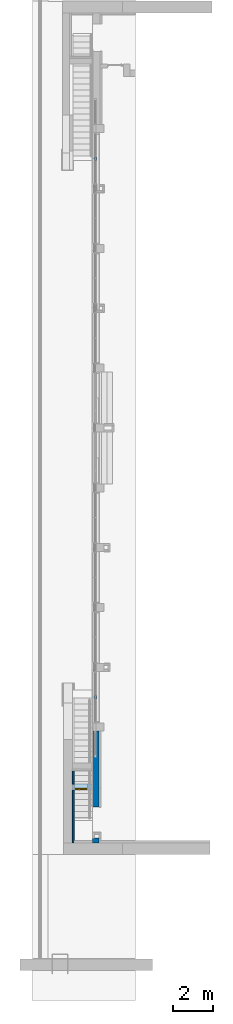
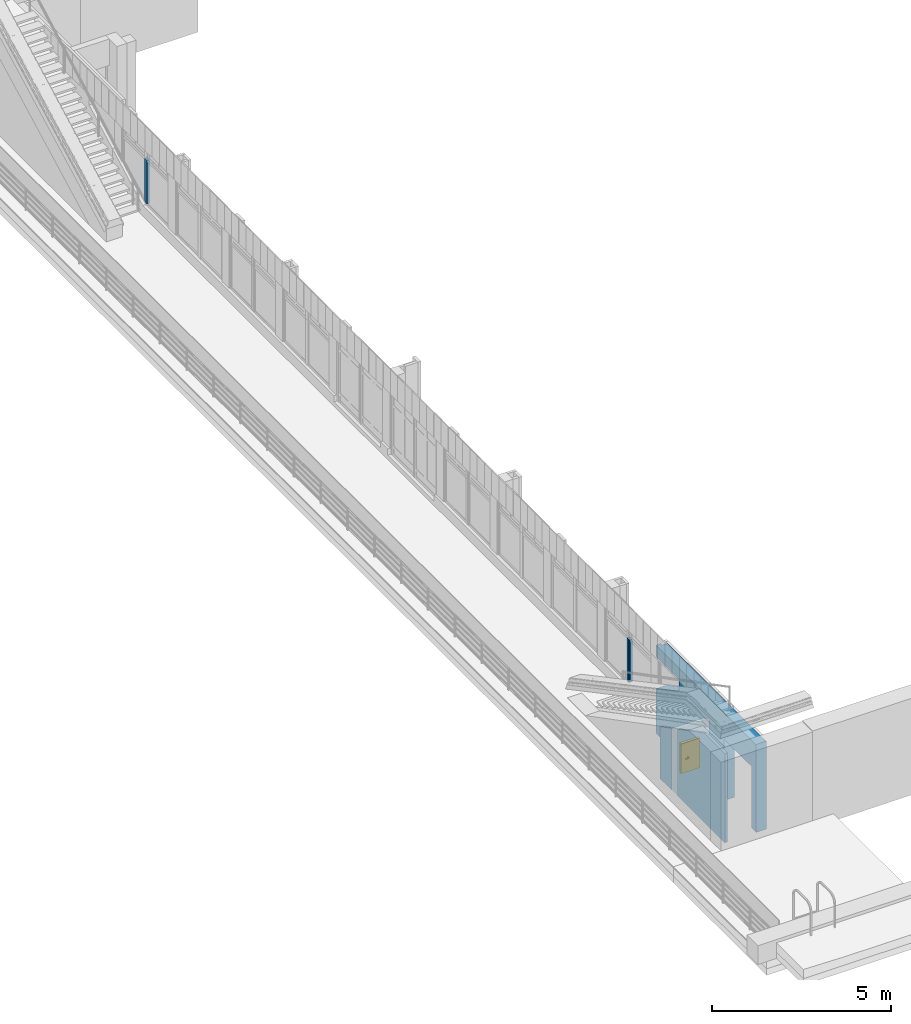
# One storey, part 10 of 16: 2 members, 2 walls, 1 door, 1 opening, 2 elements without a shape of their own, plus 1 element that does not belong to this part.
"""IFC2X3 building model written with IfcOpenShell, lengths in millimetres."""

from ifc_helpers import new_model, entity, si_unit, converted_unit, derived_unit, direction, frame, frame_2d, origin, place, context, subcontext, project, spatial, polyline, rectangle, extrude, clip, bounded_halfspace, faceted_brep, source, transform, mapped, material, layer, layer_set, layer_usage, type_object, type_shapes, element, fill, aggregate, save


model = new_model("IFC2X3")

# Units and contexts
model_context = context("Model", 3, precision=0.01, world=origin(), true_north=direction((6.123031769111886e-17, 1.0)))
body_context = subcontext(model_context, "Body", "Model", "MODEL_VIEW")
ifc_project = project(units=[si_unit("LENGTHUNIT", "METRE", prefix="MILLI"), si_unit("AREAUNIT", "SQUARE_METRE"), si_unit("VOLUMEUNIT", "CUBIC_METRE"), converted_unit("PLANEANGLEUNIT", "DEGREE", entity("IfcPlaneAngleMeasure", 0.017453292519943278), si_unit("PLANEANGLEUNIT", "RADIAN"), dimensions=[0, 0, 0, 0, 0, 0, 0]), si_unit("MASSUNIT", "GRAM", prefix="KILO"), derived_unit("MASSDENSITYUNIT", [(si_unit("MASSUNIT", "GRAM", prefix="KILO"), 1), (si_unit("LENGTHUNIT", "METRE"), -3)]), derived_unit("IONCONCENTRATIONUNIT", [(si_unit("MASSUNIT", "GRAM", prefix="KILO"), 1), (si_unit("LENGTHUNIT", "METRE"), -3)]), derived_unit("MOMENTOFINERTIAUNIT", [(si_unit("LENGTHUNIT", "METRE"), 4)]), si_unit("TIMEUNIT", "SECOND"), si_unit("FREQUENCYUNIT", "HERTZ"), si_unit("THERMODYNAMICTEMPERATUREUNIT", "DEGREE_CELSIUS"), derived_unit("THERMALTRANSMITTANCEUNIT", [(si_unit("MASSUNIT", "GRAM", prefix="KILO"), 1), (si_unit("THERMODYNAMICTEMPERATUREUNIT", "KELVIN"), -1), (si_unit("TIMEUNIT", "SECOND"), -3)]), derived_unit("THERMALCONDUCTANCEUNIT", [(si_unit("MASSUNIT", "GRAM", prefix="KILO"), 1), (si_unit("THERMODYNAMICTEMPERATUREUNIT", "KELVIN"), -1), (si_unit("TIMEUNIT", "SECOND"), -3), (si_unit("LENGTHUNIT", "METRE"), 1)]), derived_unit("VOLUMETRICFLOWRATEUNIT", [(si_unit("LENGTHUNIT", "METRE", prefix="DECI"), 3), (si_unit("TIMEUNIT", "SECOND"), -1)]), derived_unit("MASSFLOWRATEUNIT", [(si_unit("MASSUNIT", "GRAM", prefix="KILO"), 1), (si_unit("TIMEUNIT", "SECOND"), -1)]), derived_unit("ROTATIONALFREQUENCYUNIT", [(si_unit("TIMEUNIT", "SECOND"), -1)]), si_unit("ELECTRICCURRENTUNIT", "AMPERE"), si_unit("ELECTRICVOLTAGEUNIT", "VOLT"), si_unit("POWERUNIT", "WATT"), si_unit("FORCEUNIT", "NEWTON", prefix="KILO"), si_unit("ILLUMINANCEUNIT", "LUX"), si_unit("LUMINOUSFLUXUNIT", "LUMEN"), si_unit("LUMINOUSINTENSITYUNIT", "CANDELA"), si_unit("ENERGYUNIT", "JOULE"), derived_unit("USERDEFINED", [(si_unit("MASSUNIT", "GRAM", prefix="KILO"), -1), (si_unit("LENGTHUNIT", "METRE"), -2), (si_unit("TIMEUNIT", "SECOND"), 3), (si_unit("LUMINOUSFLUXUNIT", "LUMEN"), 1)]), derived_unit("USERDEFINED", [(si_unit("MASSUNIT", "GRAM", prefix="KILO"), 1), (si_unit("TIMEUNIT", "SECOND"), -3), (si_unit("LENGTHUNIT", "METRE"), 3), (si_unit("ELECTRICCURRENTUNIT", "AMPERE"), -2)]), derived_unit("SOUNDPOWERUNIT", [(si_unit("MASSUNIT", "GRAM", prefix="KILO"), 1), (si_unit("TIMEUNIT", "SECOND"), -3), (si_unit("LENGTHUNIT", "METRE"), 2)]), derived_unit("SOUNDPRESSUREUNIT", [(si_unit("MASSUNIT", "GRAM", prefix="KILO"), 1), (si_unit("LENGTHUNIT", "METRE"), -1), (si_unit("TIMEUNIT", "SECOND"), -2)]), derived_unit("LINEARVELOCITYUNIT", [(si_unit("LENGTHUNIT", "METRE"), 1), (si_unit("TIMEUNIT", "SECOND"), -1)]), si_unit("PRESSUREUNIT", "PASCAL"), derived_unit("USERDEFINED", [(si_unit("MASSUNIT", "GRAM", prefix="KILO"), 1), (si_unit("LENGTHUNIT", "METRE"), -2), (si_unit("TIMEUNIT", "SECOND"), -2)]), derived_unit("LINEARFORCEUNIT", [(si_unit("MASSUNIT", "GRAM", prefix="KILO"), 1), (si_unit("TIMEUNIT", "SECOND"), -2)]), derived_unit("PLANARFORCEUNIT", [(si_unit("MASSUNIT", "GRAM", prefix="KILO"), 1), (si_unit("LENGTHUNIT", "METRE"), -1), (si_unit("TIMEUNIT", "SECOND"), -2)]), derived_unit("SPECIFICHEATCAPACITYUNIT", [(si_unit("THERMODYNAMICTEMPERATUREUNIT", "KELVIN"), -1), (si_unit("LENGTHUNIT", "METRE"), 2), (si_unit("TIMEUNIT", "SECOND"), -2)]), derived_unit("HEATFLUXDENSITYUNIT", [(si_unit("MASSUNIT", "GRAM", prefix="KILO"), 1), (si_unit("TIMEUNIT", "SECOND"), -3)]), derived_unit("HEATINGVALUEUNIT", [(si_unit("LENGTHUNIT", "METRE"), 2), (si_unit("TIMEUNIT", "SECOND"), -2)]), derived_unit("VAPORPERMEABILITYUNIT", [(si_unit("LENGTHUNIT", "METRE"), -1), (si_unit("TIMEUNIT", "SECOND"), 1)]), derived_unit("DYNAMICVISCOSITYUNIT", [(si_unit("MASSUNIT", "GRAM", prefix="KILO"), 1), (si_unit("TIMEUNIT", "SECOND"), -1), (si_unit("LENGTHUNIT", "METRE"), -1)]), derived_unit("THERMALEXPANSIONCOEFFICIENTUNIT", [(si_unit("THERMODYNAMICTEMPERATUREUNIT", "KELVIN"), -1)]), derived_unit("MODULUSOFELASTICITYUNIT", [(si_unit("MASSUNIT", "GRAM", prefix="KILO"), 1), (si_unit("LENGTHUNIT", "METRE"), -1), (si_unit("TIMEUNIT", "SECOND"), -2)]), derived_unit("ISOTHERMALMOISTURECAPACITYUNIT", [(si_unit("MASSUNIT", "GRAM", prefix="KILO"), -1), (si_unit("LENGTHUNIT", "METRE"), 3)]), derived_unit("MOISTUREDIFFUSIVITYUNIT", [(si_unit("TIMEUNIT", "SECOND"), -1), (si_unit("LENGTHUNIT", "METRE"), 2)]), derived_unit("MASSPERLENGTHUNIT", [(si_unit("MASSUNIT", "GRAM", prefix="KILO"), 1), (si_unit("LENGTHUNIT", "METRE"), -1)]), derived_unit("THERMALRESISTANCEUNIT", [(si_unit("MASSUNIT", "GRAM", prefix="KILO"), -1), (si_unit("TIMEUNIT", "SECOND"), 3), (si_unit("THERMODYNAMICTEMPERATUREUNIT", "KELVIN"), 1)]), derived_unit("ACCELERATIONUNIT", [(si_unit("LENGTHUNIT", "METRE"), 1), (si_unit("TIMEUNIT", "SECOND"), -2)]), derived_unit("ANGULARVELOCITYUNIT", [(si_unit("TIMEUNIT", "SECOND"), -1), (si_unit("PLANEANGLEUNIT", "RADIAN"), 1)]), derived_unit("LINEARSTIFFNESSUNIT", [(si_unit("MASSUNIT", "GRAM", prefix="KILO"), 1), (si_unit("TIMEUNIT", "SECOND"), -2)]), derived_unit("WARPINGCONSTANTUNIT", [(si_unit("LENGTHUNIT", "METRE"), 6)]), derived_unit("LINEARMOMENTUNIT", [(si_unit("MASSUNIT", "GRAM", prefix="KILO"), 1), (si_unit("LENGTHUNIT", "METRE"), 1), (si_unit("TIMEUNIT", "SECOND"), -2)]), derived_unit("TORQUEUNIT", [(si_unit("MASSUNIT", "GRAM", prefix="KILO"), 1), (si_unit("LENGTHUNIT", "METRE"), 2), (si_unit("TIMEUNIT", "SECOND"), -2)])], contexts=[model_context])

# Site, building, storey
site_placement = place(None, origin())
site = spatial("IfcSite", under=ifc_project, at=site_placement, Name="Default", CompositionType="ELEMENT")
building_placement = place(site_placement, origin())
building = spatial("IfcBuilding", under=site, at=building_placement, Name="Eesti Rahvusraamatukogu hoone renoveerimise projekteerimistööd", CompositionType="ELEMENT")
storey_placement = place(building_placement, frame((0.0, 0.0, 8250.000000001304)))
storey = spatial("IfcBuildingStorey", under=building, at=storey_placement, Name="3. korrus", CompositionType="ELEMENT", Elevation=8250.000000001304)

# Curtain wall, member
curtain_wall_type = type_object("IfcCurtainWallType", Name="Curtain Wall:A-17", PredefinedType="NOTDEFINED")
curtain_wall_1_placement = place(storey_placement, frame((0.0, 0.0, -8250.000000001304)))
curtain_wall_1 = element("IfcCurtainWall", 1, at=curtain_wall_1_placement, inside=storey, type_object=curtain_wall_type, Name="Curtain Wall:A-17", ObjectType="Curtain Wall:A-17")
ifc_material_1 = material(Name="LUMION_dark steel window frames")
member_type_1 = type_object("IfcMemberType", Name="Rectangular Mullion:NEW 150x90mm", PredefinedType="MULLION", material=ifc_material_1)
shared_shape_1 = source(origin(), body_context, "Body", "Brep", [
    faceted_brep([(-20.0, 40.0, -10400.000000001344), (-20.0, 45.0, -10400.000000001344), (20.0, 45.0, -10400.000000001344), (20.0, 40.0, -10400.000000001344), (75.0, 40.0, -10400.000000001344), (75.0, -40.0, -10400.000000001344), (20.0, -40.0, -10400.000000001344), (20.0, -45.0, -10400.000000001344), (-20.0, -45.0, -10400.000000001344), (-20.0, -40.0, -10400.000000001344), (-75.0, -40.0, -10400.000000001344), (-75.0, 40.0, -10400.000000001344), (-75.0, 40.0, -8910.000000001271), (-20.0, 40.0, -8910.000000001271), (-75.0, -40.0, -8910.000000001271), (-20.0, -40.0, -8910.000000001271), (-20.0, -45.0, -8910.000000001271), (20.0, -45.0, -8928.91456797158), (-15.12705480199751, -45.0, -8910.000000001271), (20.0, -40.0, -8928.91456797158), (75.0, -40.0, -8958.529952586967), (75.0, 40.0, -8958.529952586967), (20.0, 40.0, -8928.91456797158), (20.0, 45.0, -8928.91456797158), (-20.0, 45.0, -8910.000000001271), (-15.127054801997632, 45.0, -8910.000000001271)], [[[0, 1, 2, 3, 4, 5, 6, 7, 8, 9, 10, 11]], [[12, 13, 0, 11]], [[14, 12, 11, 10]], [[15, 14, 10, 9]], [[16, 15, 9, 8]], [[17, 18, 16, 8, 7]], [[19, 17, 7, 6]], [[20, 19, 6, 5]], [[21, 20, 5, 4]], [[22, 21, 4, 3]], [[23, 22, 3, 2]], [[24, 25, 23, 2, 1]], [[13, 24, 1, 0]], [[13, 12, 14, 15, 16, 18, 25, 24]], [[18, 17, 19, 20, 21, 22, 23, 25]]]),
])
type_shapes(member_type_1, [shared_shape_1])
member_1_placement = place(curtain_wall_1_placement, frame((-33635.0, 13890.0, 0.0), z_axis=(0.0, 0.0, -1.0), x_axis=(0.0, -1.0, 0.0)))
member_1 = element("IfcMember", 2, at=member_1_placement, type_object=member_type_1, material=ifc_material_1, Name="Rectangular Mullion:NEW 150x90mm", ObjectType="Rectangular Mullion:NEW 150x90mm", context=body_context, shape_type="MappedRepresentation", body=[
    mapped(shared_shape_1, transform((0.0, 0.0, 0.0), scale=1.0)),
])
aggregate(curtain_wall_1, [member_1])

curtain_wall_2_placement = place(storey_placement, frame((0.0, 0.0, -8250.000000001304)))
curtain_wall_2 = element("IfcCurtainWall", 3, at=curtain_wall_2_placement, inside=storey, type_object=curtain_wall_type, Name="Curtain Wall:A-17", ObjectType="Curtain Wall:A-17")
member_type_2 = type_object("IfcMemberType", Name="Rectangular Mullion:NEW 150x90mm", PredefinedType="MULLION", material=ifc_material_1)
shared_shape_2 = source(origin(), body_context, "Body", "Brep", [
    faceted_brep([(-20.0, -40.0, -10400.000000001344), (-75.0, -40.0, -10400.000000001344), (-75.0, 40.0, -10400.000000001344), (-20.0, 40.0, -10400.000000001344), (-20.0, 45.0, -10400.000000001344), (20.0, 45.0, -10400.000000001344), (20.0, 40.0, -10400.000000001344), (75.0, 40.0, -10400.000000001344), (75.0, -40.0, -10400.000000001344), (20.0, -40.0, -10400.000000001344), (20.0, -45.0, -10400.000000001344), (-20.0, -45.0, -10400.000000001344), (-20.0, -45.0, -8910.000000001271), (-20.0, -40.0, -8910.000000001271), (20.0, -45.0, -8928.914567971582), (-15.127054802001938, -45.0, -8910.000000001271), (20.0, -40.0, -8928.914567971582), (75.0, -40.0, -8958.529952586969), (75.0, 40.0, -8958.52995258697), (20.0, 40.0, -8928.914567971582), (20.0, 45.0, -8928.914567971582), (-20.0, 45.0, -8910.000000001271), (-15.127054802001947, 45.0, -8910.000000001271), (-20.0, 40.0, -8910.000000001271), (-75.0, 40.0, -8910.000000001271), (-75.0, -40.0, -8910.000000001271)], [[[0, 1, 2, 3, 4, 5, 6, 7, 8, 9, 10, 11]], [[12, 13, 0, 11]], [[14, 15, 12, 11, 10]], [[16, 14, 10, 9]], [[17, 16, 9, 8]], [[18, 17, 8, 7]], [[19, 18, 7, 6]], [[20, 19, 6, 5]], [[21, 22, 20, 5, 4]], [[23, 21, 4, 3]], [[24, 23, 3, 2]], [[25, 24, 2, 1]], [[13, 25, 1, 0]], [[13, 12, 15, 22, 21, 23, 24, 25]], [[15, 14, 16, 17, 18, 19, 20, 22]]]),
])
type_shapes(member_type_2, [shared_shape_2])
member_2_placement = place(curtain_wall_2_placement, frame((-33635.0, 40890.0, 0.0), z_axis=(0.0, 0.0, -1.0), x_axis=(0.0, 1.0, 0.0)))
member_2 = element("IfcMember", 4, at=member_2_placement, type_object=member_type_2, material=ifc_material_1, Name="Rectangular Mullion:NEW 150x90mm", ObjectType="Rectangular Mullion:NEW 150x90mm", context=body_context, shape_type="MappedRepresentation", body=[
    mapped(shared_shape_2, transform((0.0, 0.0, 0.0), scale=1.0)),
])
aggregate(curtain_wall_2, [member_2])

# Wall
ifc_material_2 = material(Name="ol. olev materjal")
ifc_layer_1 = layer(ifc_material_2, 330.00000000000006)
ifc_layer_set_1 = layer_set([ifc_layer_1], Name="Basic Wall:ol. olev - 330mm")
wall_type_1 = type_object("IfcWallType", Name="Basic Wall:ol. olev - 330mm", PredefinedType="STANDARD", material=ifc_layer_set_1)
wall_1_placement = place(storey_placement, frame((-33605.0, 12190.0, 0.0), z_axis=(0.0, 0.0, 1.0), x_axis=(0.0, -1.0, 0.0)))
element("IfcWall", 5, at=wall_1_placement, inside=storey, type_object=wall_type_1, Name="Basic Wall:ol. olev - 330mm", ObjectType="Basic Wall:ol. olev - 330mm", context=body_context, shape_type="Brep", body=[
    faceted_brep([(5600.0, -165.0, 0.0), (5600.0, -165.0, 3000.0), (0.0, -165.0, 3000.0), (0.0, -165.0, 2600.0), (1300.0, -165.0, 2600.0), (1300.0, -165.0, 2215.384615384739), (0.0, -165.0, 1515.3846153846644), (0.0, -165.0, 0.0), (2660.0, -165.0, 0.0), (2960.0, -165.0, 0.0), (3810.0, -165.0, 0.0), (3810.0, -165.0, 2100.0), (5360.0, -165.0, 2100.0), (5360.0, -165.0, 0.0), (5600.0, 165.0, 3000.0), (5600.0, 165.0, 0.0), (5490.0, 165.0, 0.0), (5360.0, 165.0, 0.0), (5360.0, 165.0, 2100.0), (3810.0, 165.0, 2100.0), (3810.0, 165.0, 0.0), (2859.9960501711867, 165.0, 0.0), (0.0, 165.0, 0.0), (0.0, 165.0, 1515.3846153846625), (1300.0, 165.0, 2215.384615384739), (1300.0, 165.0, 2600.0), (0.0, 165.0, 2600.0), (0.0, 165.0, 2750.0), (60.00000000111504, 165.0, 2750.0), (81.73913043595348, 165.0, 3000.0), (2859.9960501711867, 165.0, 3000.0), (5490.0, 165.0, 3000.0), (0.0, 15.0, 0.0), (81.73913043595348, -5.0, 3000.0), (0.0, -5.0, 3000.0), (0.0, -5.0, 2750.0), (0.0, 15.0, 2750.0), (0.0, 35.0, 2600.0), (0.0, 15.0, 2600.0), (0.0, 35.0, 1515.3846153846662), (0.0, 15.0, 1515.3846153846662), (60.00000000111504, -5.0, 2750.0)], [[[0, 1, 2, 3, 4, 5, 6, 7, 8, 9, 10, 11, 12, 13]], [[14, 15, 16, 17, 18, 19, 20, 21, 22, 23, 24, 25, 26, 27, 28, 29, 30, 31]], [[7, 32, 22, 21, 20, 10, 9, 8]], [[1, 0, 15, 14]], [[2, 1, 14, 31, 30, 29, 33, 34]], [[3, 2, 34, 35, 36, 27, 26, 37, 38]], [[25, 4, 3, 38, 37, 26]], [[4, 25, 24, 5]], [[5, 24, 23, 39, 40, 6]], [[33, 41, 35, 34]], [[41, 33, 29, 28]], [[35, 41, 28, 27, 36]], [[19, 11, 10, 20]], [[12, 18, 17, 13]], [[11, 19, 18, 12]], [[22, 32, 7, 6, 40, 39, 23]], [[15, 0, 13, 17, 16]]]),
])

# Wall, opening, door
ifc_layer_2 = layer(ifc_material_2, 300.0)
ifc_layer_set_2 = layer_set([ifc_layer_2], Name="Basic Wall:ol. olev - 300mm")
ifc_layer_usage = layer_usage(ifc_layer_set_2, "AXIS2", "NEGATIVE", 150.0)
wall_type_2 = type_object("IfcWallType", Name="Basic Wall:ol. olev - 300mm", PredefinedType="STANDARD", material=ifc_layer_set_2)
wall_2_placement = place(storey_placement, frame((-34780.0, 9380.0, 0.0)))
wall_2 = element("IfcWallStandardCase", 6, at=wall_2_placement, inside=storey, type_object=wall_type_2, material=ifc_layer_usage, Name="Basic Wall:ol. olev - 300mm", ObjectType="Basic Wall:ol. olev - 300mm", context=body_context, shape_type="Clipping", body=[
    clip(extrude(rectangle(XDim=1010.0000000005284, YDim=300.00000000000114, at=frame_2d((505.0000000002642, -1.9895196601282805e-13), x_axis=(-1.0, 0.0))), origin(), (0.0, 0.0, 1.0), 2279.699977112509), bounded_halfspace(frame((0.0, -150.0, 2279.6999771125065), z_axis=(0.0, -0.46135273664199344, -0.8872168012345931), x_axis=(-1.0, 0.0, 0.0)), True, frame((0.0, -150.0, 2279.6999771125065)), polyline([(0.0, 0.0), (84.49999999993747, 0.0), (1010.0, 0.0), (1010.0, 300.0), (84.49999999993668, 300.0), (0.0, 300.0), (0.0, 0.0)]))),
])
opening_placement = place(wall_2_placement, frame((742.5000000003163, 150.0, 700.0)))
opening = element("IfcOpeningElement", 7, at=opening_placement, cuts=wall_2, Name="SMA_D02, 2-poolne:ol. olev - 630x1020:1", ObjectType="Opening", context=body_context, shape_type="SweptSolid", body=[
    extrude(rectangle(XDim=1019.9999999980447, YDim=629.9999999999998, at=frame_2d((509.9999999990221, 314.9999999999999), x_axis=(1.0, 0.0))), frame((0.0, 0.0, 0.0), z_axis=(0.0, -1.0, 0.0), x_axis=(0.0, 0.0, 1.0)), (0.0, 0.0, 1.0), 300.0),
])
ifc_material_3 = material(Name="EST. Metall. Plekk. Värvitud. RAL7023 (Concrete grey)")
door_style = type_object("IfcDoorStyle", Name="SMA_D02, 2-poolne:ol. olev - 630x1020", ConstructionType="NOTDEFINED", OperationType="NOTDEFINED", ParameterTakesPrecedence=False, Sizeable=False, material=ifc_material_3)
shared_shape_3 = source(origin(), body_context, "Body", "Brep", [
    faceted_brep([(407.499999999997, 190.0, 500.0), (407.49999999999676, 228.0, 500.0), (382.4999999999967, 228.0, 500.0), (382.4999999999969, 185.0, 500.0), (502.4999999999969, 185.0, 500.0), (502.4999999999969, 190.0, 500.0), (407.499999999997, 190.0, 475.0), (502.4999999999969, 190.0, 475.0), (502.4999999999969, 185.0, 475.0), (382.4999999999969, 185.0, 475.0), (382.4999999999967, 228.0, 475.0), (407.49999999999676, 228.0, 475.0)], [[[0, 1, 2, 3, 4, 5]], [[6, 7, 8, 9, 10, 11]], [[1, 0, 6, 11]], [[2, 1, 11, 10]], [[3, 2, 10, 9]], [[4, 3, 9, 8]], [[5, 4, 8, 7]], [[0, 5, 7, 6]]]),
    faceted_brep([(420.0, 228.0, 525.0), (420.0, 230.0, 525.0), (370.0, 230.0, 525.0), (370.0, 228.0, 525.0), (420.0, 228.0, 405.0), (370.0, 228.0, 405.0), (370.0, 230.0, 405.0), (420.0, 230.0, 405.0)], [[[0, 1, 2, 3]], [[4, 5, 6, 7]], [[1, 0, 4, 7]], [[2, 1, 7, 6]], [[3, 2, 6, 5]], [[0, 3, 5, 4]]]),
    faceted_brep([(407.4999999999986, 320.0, 500.0), (502.4999999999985, 320.0, 500.0), (502.4999999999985, 325.0, 500.0), (382.4999999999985, 325.0, 500.0), (382.4999999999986, 282.0, 500.0), (407.49999999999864, 282.0, 500.0), (407.4999999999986, 320.0, 475.0), (407.49999999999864, 282.0, 475.0), (382.4999999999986, 282.0, 475.0), (382.4999999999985, 325.0, 475.0), (502.4999999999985, 325.0, 475.0), (502.4999999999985, 320.0, 475.0)], [[[0, 1, 2, 3, 4, 5]], [[6, 7, 8, 9, 10, 11]], [[5, 7, 6, 0]], [[4, 8, 7, 5]], [[3, 9, 8, 4]], [[2, 10, 9, 3]], [[1, 11, 10, 2]], [[0, 6, 11, 1]]]),
    faceted_brep([(420.0, 282.0, 525.0), (370.0, 282.0, 525.0), (370.0, 280.0, 525.0), (420.0, 280.0, 525.0), (420.0, 282.0, 405.0), (420.0, 280.0, 405.0), (370.0, 280.0, 405.0), (370.0, 282.0, 405.0)], [[[0, 1, 2, 3]], [[4, 5, 6, 7]], [[3, 5, 4, 0]], [[2, 6, 5, 3]], [[1, 7, 6, 2]], [[0, 4, 7, 1]]]),
    faceted_brep([(620.0, 190.0, 0.0), (580.0, 190.0, 0.0), (580.0, 230.0, 0.0), (595.0, 230.0, 0.0), (595.0, 280.0, 0.0), (620.0, 280.0, 0.0), (620.0, 190.0, 1009.9999999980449), (10.0, 190.0, 1009.9999999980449), (10.0, 190.0, 0.0), (50.0, 190.0, 0.0), (50.0, 190.0, 969.999999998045), (580.0, 190.0, 969.9999999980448), (580.0, 230.0, 969.9999999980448), (50.0, 230.0, 969.9999999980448), (50.0, 230.0, 0.0), (35.0, 230.0, 0.0), (35.0, 230.0, 984.9999999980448), (595.0, 230.0, 984.9999999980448), (595.0, 280.0, 984.9999999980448), (35.0, 280.0, 984.9999999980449), (35.0, 280.0, 0.0), (10.0, 280.0, 0.0), (10.0, 280.0, 1009.9999999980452), (620.0, 280.0, 1009.9999999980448)], [[[0, 1, 2, 3, 4, 5]], [[1, 0, 6, 7, 8, 9, 10, 11]], [[2, 1, 11, 12]], [[3, 2, 12, 13, 14, 15, 16, 17]], [[4, 3, 17, 18]], [[5, 4, 18, 19, 20, 21, 22, 23]], [[0, 5, 23, 6]], [[8, 7, 22, 21]], [[9, 8, 21, 20, 15, 14]], [[10, 9, 14, 13]], [[16, 15, 20, 19]], [[11, 10, 13, 12]], [[17, 16, 19, 18]], [[7, 6, 23, 22]]]),
    faceted_brep([(580.0, 190.0, 30.0), (580.0, 190.0, 0.0), (580.0, 230.0000000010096, 0.0), (580.0, 230.0, 20.0), (580.0, 230.0, 30.0), (50.0, 190.0, 30.0), (50.0, 230.0, 30.0), (50.0, 230.0000000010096, 20.0), (50.0, 230.0, 0.0), (50.0, 190.0, 0.0), (35.0, 230.0000000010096, 0.0), (35.0, 280.0, 0.0), (595.0, 280.0, 0.0), (595.0, 230.0000000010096, 0.0), (595.0, 280.0, 20.0), (595.0, 230.0000000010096, 20.0), (35.0, 280.0, 20.0), (35.0, 230.0000000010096, 20.0)], [[[0, 1, 2, 3, 4]], [[5, 6, 7, 8, 9]], [[1, 0, 5, 9]], [[2, 1, 9, 8, 10, 11, 12, 13]], [[6, 4, 3, 7]], [[0, 4, 6, 5]], [[14, 15, 13, 12]], [[16, 11, 10, 17]], [[15, 14, 16, 17, 7, 3]], [[13, 15, 3, 2]], [[14, 12, 11, 16]], [[17, 10, 8, 7]]]),
    faceted_brep([(35.0, 230.0, 20.0), (320.0, 230.0, 20.0), (320.0, 230.0, 984.9999999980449), (35.0, 230.0, 984.9999999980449), (35.0, 280.0, 20.0), (35.0, 280.0, 984.9999999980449), (320.0, 280.0, 984.9999999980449), (320.0, 280.0, 20.0)], [[[0, 1, 2, 3]], [[4, 5, 6, 7]], [[1, 0, 4, 7]], [[2, 1, 7, 6]], [[3, 2, 6, 5]], [[0, 3, 5, 4]]]),
    faceted_brep([(595.0, 230.0, 994.9999999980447), (320.0, 230.0, 994.9999999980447), (320.0, 230.0, 20.0), (595.0, 230.0, 20.0), (595.0, 280.0, 994.9999999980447), (595.0, 280.0, 20.0), (320.0, 280.0, 20.0), (320.0, 280.0, 994.9999999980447)], [[[0, 1, 2, 3]], [[4, 5, 6, 7]], [[1, 0, 4, 7]], [[2, 1, 7, 6]], [[3, 2, 6, 5]], [[0, 3, 5, 4]]]),
])
type_shapes(door_style, [shared_shape_3])
door_placement = place(opening_placement, frame((0.0, 0.0, 0.0), z_axis=(0.0, 0.0, 1.0), x_axis=(-1.0, 0.0, 0.0)))
door = element("IfcDoor", 8, at=door_placement, inside=storey, type_object=door_style, material=ifc_material_3, Name="SMA_D02, 2-poolne:ol. olev - 630x1020", ObjectType="SMA_D02, 2-poolne:ol. olev - 630x1020", OverallHeight=1019.9999999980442, OverallWidth=629.9999999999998, context=body_context, shape_type="MappedRepresentation", body=[
    mapped(shared_shape_3, transform((0.0, 0.0, 0.0), scale=1.0)),
])
fill(opening, door)

# Wall
ifc_material_4 = material(Name="EST. Soojustus.PIR_Powerwall Pro")
ifc_layer_3 = layer(ifc_material_4, 30.0)
ifc_material_5 = material(Name="EST. Metall. Alumiinium. Mütsprofiil.")
ifc_layer_4 = layer(ifc_material_5, 42.0)
ifc_material_6 = material(Name="EST. Ehitusplaat. Kipsplaat")
ifc_layer_5 = layer(ifc_material_6, 12.5)
ifc_layer_set_3 = layer_set([ifc_layer_3, ifc_layer_4, ifc_layer_5], Name="Basic Wall:VS-03.1 - soojustus")
wall_type_3 = type_object("IfcWallType", Name="Basic Wall:VS-03.1 - soojustus", PredefinedType="STANDARD", material=ifc_layer_set_3)
wall_3_placement = place(storey_placement, frame((-34737.750000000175, 10205.50000000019, 0.0), z_axis=(0.0, 0.0, 1.0), x_axis=(0.0, -1.0, 0.0)))
element("IfcWall", 9, at=wall_3_placement, inside=storey, type_object=wall_type_3, Name="Basic Wall:VS-03.1 - soojustus", ObjectType="Basic Wall:VS-03.1 - soojustus", context=body_context, shape_type="Brep", body=[
    faceted_brep([(0.0, -42.25, 1772.4399771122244), (0.0, -42.25, 0.0), (675.4999999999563, -42.25, 0.0), (675.4999999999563, -42.25, 2123.6999771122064), (0.0, 42.25, 0.0), (675.4999999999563, 42.25, 0.0), (0.0, 42.25, 1772.4399771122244), (675.4999999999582, 42.25, 2123.6999771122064)], [[[0, 1, 2, 3]], [[1, 4, 5, 2]], [[1, 0, 6, 4]], [[3, 2, 5, 7]], [[6, 0, 3, 7]], [[4, 6, 7, 5]]]),
    faceted_brep([(3615.5000000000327, 42.25, 3046.5218764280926), (3615.500000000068, 42.25, 0.0), (975.4999999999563, 42.25, 0.0), (975.4999999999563, 42.25, 2279.699977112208), (2450.1574986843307, 42.25, 3046.5218764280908), (3615.500000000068, -42.25, 3046.5218764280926), (3615.500000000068, -42.25, 0.0), (975.4999999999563, -42.25, 0.0), (975.4999999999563, -42.25, 2279.699977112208), (2450.1574986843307, -42.249999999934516, 3046.5218764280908)], [[[0, 1, 2, 3, 4]], [[5, 6, 1, 0]], [[7, 8, 3, 2]], [[9, 4, 3, 8]], [[5, 0, 4, 9]], [[1, 6, 7, 2]], [[6, 5, 9, 8, 7]]]),
])

save(model, "model.ifc")
